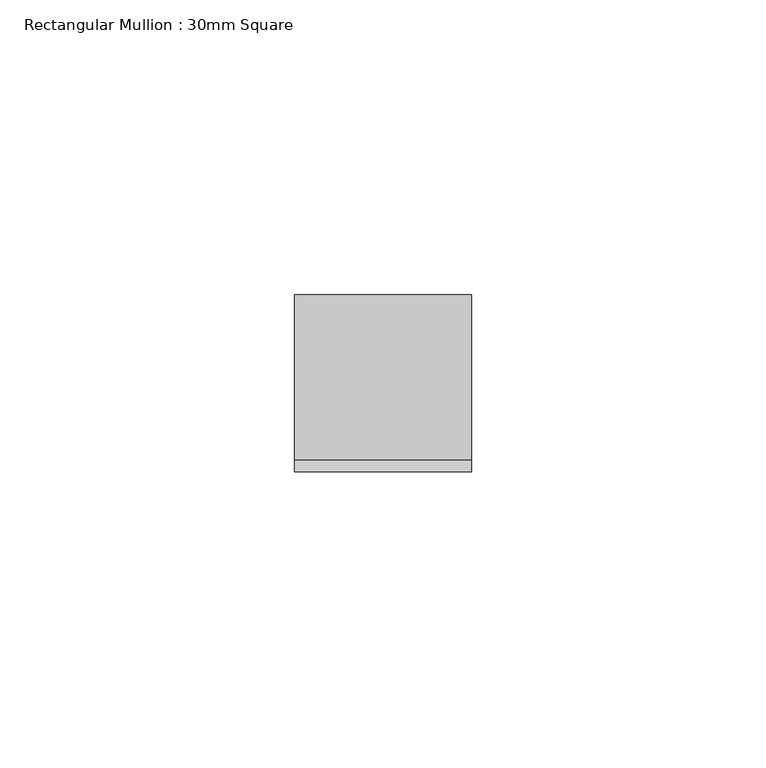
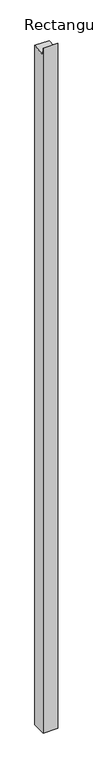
"""IFC4 building model written with IfcOpenShell, lengths in millimetres: member geometry, Rectangular Mullion : 30mm Square."""

from ifc_helpers import new_model, si_unit, frame, origin, place, context, project, spatial, polyline, outline, extrude, source, transform, mapped, element, save


def rectangular_mullion_30mm_square_ab68954c(model_context):
    return source(origin(), model_context, "Body", "SweptSolid", [
        extrude(outline(polyline([(-15.0, 14.058809), (-13.0073511, -1.7573511), (15.0, 1.7712434), (15.0, -1479.0), (-15.0, -1479.0), (-15.0, 14.058809)])), frame((-30.0, 0.0, 0.0), z_axis=(1.0, 0.0, 0.0), x_axis=(0.0, 1.0, 0.0)), (0.0, 0.0, 1.0), 30.0),
    ])


if __name__ == "__main__":
    model = new_model("IFC4")
    model_context = context("Model", 3, world=origin())
    ifc_project = project(units=[si_unit("LENGTHUNIT", "METRE", prefix="MILLI")], contexts=[model_context])
    site = spatial("IfcSite", under=ifc_project)
    building = spatial("IfcBuilding", under=site)
    placement = place(None, origin())
    rectangular_mullion_30mm_square_shape = rectangular_mullion_30mm_square_ab68954c(model_context)
    element("IfcMember", 1, ObjectType="Rectangular Mullion : 30mm Square", at=placement, inside=building, context=model_context, shape_type="MappedRepresentation", body=[
        mapped(rectangular_mullion_30mm_square_shape, transform((0.0, 0.0, 0.0), x_axis=(1.0, 0.0, 0.0), y_axis=(0.0, 1.0, 0.0), z_axis=(0.0, 0.0, 1.0))),
    ])
    save(model, "model.ifc")
